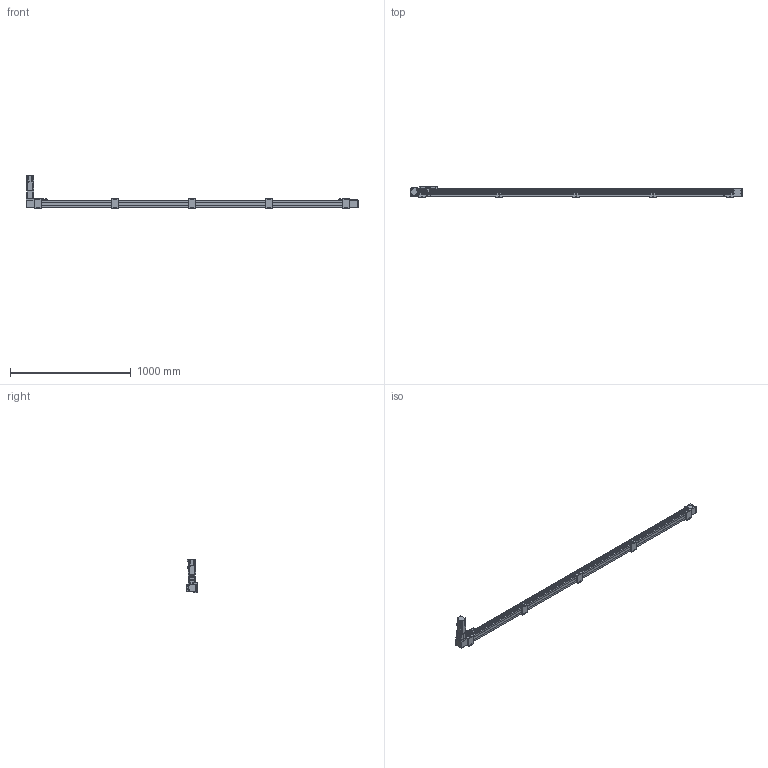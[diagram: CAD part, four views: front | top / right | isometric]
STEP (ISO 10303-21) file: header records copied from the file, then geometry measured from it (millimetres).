
FILE_DESCRIPTION(/* description */ ('STEP AP203'),/* implementation_level */ '2;1');
FILE_NAME(/* name */ 'SK60-P13-S2450-BL-T40-C1-N(0)',/* time_stamp */ '2023-04-06T03:37:58+02:00',/* author */ ('License CC BY-ND 4.0'),/* organization */ ('CADENAS'),/* preprocessor_version */ 'ST-DEVELOPER v19.3',/* originating_system */ 'PARTsolutions',/* authorisation */ ' ');
FILE_SCHEMA (('CONFIG_CONTROL_DESIGN'));
Length unit declared in the file: millimetre
Products named in the file (11): SK60-P13-S2450-BL-T40-C1-N(0); PSC140-sensor; SK60-S450_seat; SK60-S450-BL-C1_slider; SK60_body3; SK60_body6; SK60-BL_body2; T40-p1; SK60_body5; SK60_body4; SK60-S2450-BL-C1_body
Assembly tree (20 placements, depth 2):
  SK60-P13-S2450-BL-T40-C1-N(0)
    PSC140-sensor  x3
    SK60-S450_seat  x5
    SK60-S450-BL-C1_slider
    SK60_body3  x3
    SK60_body6  x2
    SK60-BL_body2  x2
    T40-p1
    SK60_body5
    SK60_body4
    SK60-S2450-BL-C1_body
Bounding box: 2750 x 90 x 278.2 mm (x, y, z)
Volume: 9919763.5 mm3; surface area: 1209419.7 mm2
Topology: 20 solids, 24 shells, 966 faces, 2403 edges, 1586 vertices
Faces by surface type: plane 616, cylinder 314, cone 34, torus 2
Full cylindrical faces by diameter (mm): 2.8 x3, 3.3 x4, 4.2 x8, 4.5 x26, 4.6 x3, 4.917 x28, 5 x2, 5.478 x4, 5.5 x31, 6.5 x10, 8 x4, 8.5 x4, 9.988 x4, 10 x20, 13.556 x1, 14 x1, 14.586 x1, 19.692 x1, 38.432 x2, 43 x1, 44 x3, 47 x2, 50 x2
Entity records: 19395 total; most frequent: DIRECTION 3298, CARTESIAN_POINT 3292, ORIENTED_EDGE 3050, EDGE_CURVE 1525, AXIS2_PLACEMENT_3D 1103, LINE 1092, VECTOR 1092, VERTEX_POINT 1077
